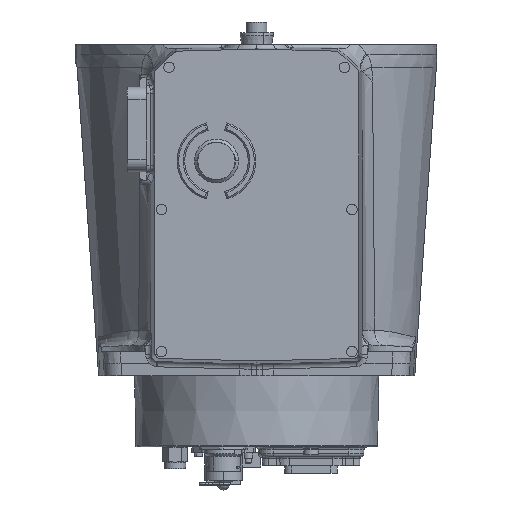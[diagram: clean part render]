
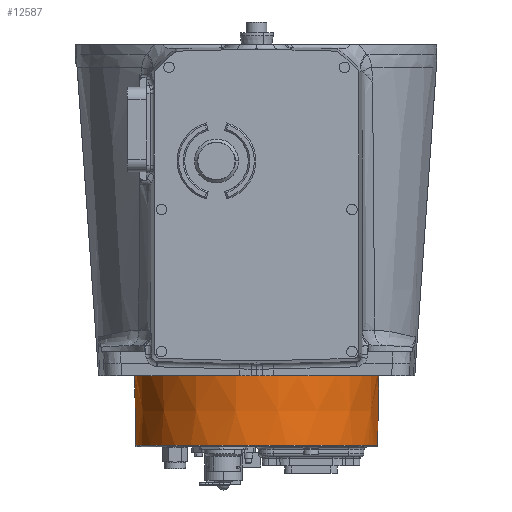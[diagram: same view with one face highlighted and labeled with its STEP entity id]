
A CAD part, left-side view. The second image highlights one B-rep face of the part: STEP entity #12587.
In plain terms, the highlighted conical face has half-angle 1 degrees and reference radius 81 mm.
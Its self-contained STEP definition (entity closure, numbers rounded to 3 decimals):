
#290 = ORIENTED_EDGE ( 'NONE', *, *, #23143, .T. ) ;
#332 = ORIENTED_EDGE ( 'NONE', *, *, #24625, .T. ) ;
#439 = ORIENTED_EDGE ( 'NONE', *, *, #23601, .T. ) ;
#3386 = DIRECTION ( 'NONE',  ( 0., 1., 0. ) ) ;
#3387 = CARTESIAN_POINT ( 'NONE',  ( 0., 0., -46.017 ) ) ;
#3388 = DIRECTION ( 'NONE',  ( 0., 0., 1. ) ) ;
#3664 = DIRECTION ( 'NONE',  ( 0., 1., 0. ) ) ;
#3665 = DIRECTION ( 'NONE',  ( 0., 0., -1. ) ) ;
#3667 = CARTESIAN_POINT ( 'NONE',  ( 0., 0., 0. ) ) ;
#6910 = AXIS2_PLACEMENT_3D ( 'NONE', #3387, #3388, #3386 ) ;
#6984 = AXIS2_PLACEMENT_3D ( 'NONE', #3667, #3665, #3664 ) ;
#7272 = AXIS2_PLACEMENT_3D ( 'NONE', #27206, #27049, #27048 ) ;
#9480 = CARTESIAN_POINT ( 'NONE',  ( -30.713, -73.78, -46.017 ) ) ;
#9594 = CARTESIAN_POINT ( 'NONE',  ( 0., -79.917, -46.017 ) ) ;
#9638 = CARTESIAN_POINT ( 'NONE',  ( 0., -80.721, 0. ) ) ;
#9986 = VERTEX_POINT ( 'NONE', #9594 ) ;
#10092 = VERTEX_POINT ( 'NONE', #9638 ) ;
#10227 = VERTEX_POINT ( 'NONE', #9480 ) ;
#10575 = VERTEX_POINT ( 'NONE', #26786 ) ;
#10583 = VERTEX_POINT ( 'NONE', #26161 ) ;
#10718 = VERTEX_POINT ( 'NONE', #26073 ) ;
#11625 = B_SPLINE_CURVE_WITH_KNOTS ( 'NONE', 3,
 ( #17406, #17405, #17400, #17399, #17398, #17397, #17396, #17395, #17394, #17393 ),
 .UNSPECIFIED., .F., .F.,
 ( 4, 2, 2, 2, 4 ),
 ( 0., 0.002, 0.004, 0.006, 0.008 ),
 .UNSPECIFIED. ) ;
#12239 = LINE ( 'NONE', #17323, #12243 ) ;
#12243 = VECTOR ( 'NONE', #17361, 1000. ) ;
#12257 = LINE ( 'NONE', #17208, #12259 ) ;
#12259 = VECTOR ( 'NONE', #17207, 1000. ) ;
#12587 = ADVANCED_FACE ( 'NONE', ( #19958 ), #20354, .T. ) ;
#15495 = EDGE_LOOP ( 'NONE', ( #19479, #18942, #290, #19540, #332, #439 ) ) ;
#17207 = DIRECTION ( 'NONE',  ( 0., -0.017, 1. ) ) ;
#17208 = CARTESIAN_POINT ( 'NONE',  ( 0., -81., 16. ) ) ;
#17323 = CARTESIAN_POINT ( 'NONE',  ( 0., 81., 16. ) ) ;
#17361 = DIRECTION ( 'NONE',  ( 0., 0.017, 1. ) ) ;
#17393 = CARTESIAN_POINT ( 'NONE',  ( -30.713, -73.78, -46.017 ) ) ;
#17394 = CARTESIAN_POINT ( 'NONE',  ( -31.32, -73.528, -46.017 ) ) ;
#17395 = CARTESIAN_POINT ( 'NONE',  ( -31.923, -73.267, -46.033 ) ) ;
#17396 = CARTESIAN_POINT ( 'NONE',  ( -33.122, -72.733, -46.059 ) ) ;
#17397 = CARTESIAN_POINT ( 'NONE',  ( -33.719, -72.458, -46.07 ) ) ;
#17398 = CARTESIAN_POINT ( 'NONE',  ( -34.905, -71.894, -46.07 ) ) ;
#17399 = CARTESIAN_POINT ( 'NONE',  ( -35.495, -71.605, -46.059 ) ) ;
#17400 = CARTESIAN_POINT ( 'NONE',  ( -36.668, -71.012, -46.033 ) ) ;
#17405 = CARTESIAN_POINT ( 'NONE',  ( -37.251, -70.708, -46.017 ) ) ;
#17406 = CARTESIAN_POINT ( 'NONE',  ( -37.83, -70.397, -46.017 ) ) ;
#18942 = ORIENTED_EDGE ( 'NONE', *, *, #23645, .T. ) ;
#19479 = ORIENTED_EDGE ( 'NONE', *, *, #23083, .T. ) ;
#19540 = ORIENTED_EDGE ( 'NONE', *, *, #23615, .F. ) ;
#19958 = FACE_OUTER_BOUND ( 'NONE', #15495, .T. ) ;
#20354 = CONICAL_SURFACE ( 'NONE', #23965, 81., 0.017 ) ;
#21843 = CIRCLE ( 'NONE', #7272, 79.917 ) ;
#23083 = EDGE_CURVE ( 'NONE', #10227, #9986, #24035, .T. ) ;
#23143 = EDGE_CURVE ( 'NONE', #10092, #10718, #23932, .T. ) ;
#23601 = EDGE_CURVE ( 'NONE', #10575, #10227, #11625, .T. ) ;
#23615 = EDGE_CURVE ( 'NONE', #10583, #10718, #12239, .T. ) ;
#23645 = EDGE_CURVE ( 'NONE', #9986, #10092, #12257, .T. ) ;
#23932 = CIRCLE ( 'NONE', #6984, 80.721 ) ;
#23965 = AXIS2_PLACEMENT_3D ( 'NONE', #28617, #28109, #28605 ) ;
#24035 = CIRCLE ( 'NONE', #6910, 79.917 ) ;
#24625 = EDGE_CURVE ( 'NONE', #10583, #10575, #21843, .T. ) ;
#26073 = CARTESIAN_POINT ( 'NONE',  ( 0., 80.721, 0. ) ) ;
#26161 = CARTESIAN_POINT ( 'NONE',  ( 0., 79.917, -46.017 ) ) ;
#26786 = CARTESIAN_POINT ( 'NONE',  ( -37.83, -70.397, -46.017 ) ) ;
#27048 = DIRECTION ( 'NONE',  ( 0., 1., 0. ) ) ;
#27049 = DIRECTION ( 'NONE',  ( 0., 0., 1. ) ) ;
#27206 = CARTESIAN_POINT ( 'NONE',  ( 0., 0., -46.017 ) ) ;
#28109 = DIRECTION ( 'NONE',  ( 0., 0., 1. ) ) ;
#28605 = DIRECTION ( 'NONE',  ( 0., 1., 0. ) ) ;
#28617 = CARTESIAN_POINT ( 'NONE',  ( 0., 0., 16. ) ) ;
